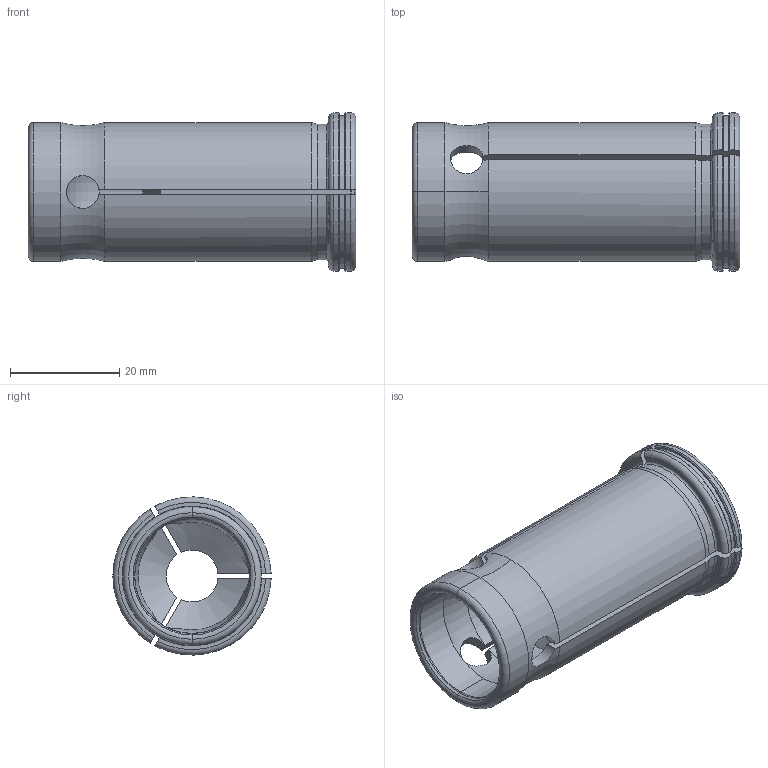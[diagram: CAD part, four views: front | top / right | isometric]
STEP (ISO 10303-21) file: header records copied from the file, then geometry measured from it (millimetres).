
FILE_DESCRIPTION((''),'2;1');
FILE_NAME('K25_4-9_525','2020-09-02T08:08:44',('ssktool'),(''),'CREO PARAMETRIC BY PTC INC, 2018100','CREO PARAMETRIC BY PTC INC, 2018100','');
FILE_SCHEMA(('CONFIG_CONTROL_DESIGN'));
Length unit declared in the file: millimetre
Products named in the file (1): K25_4-9_525
Bounding box: 60 x 28.99 x 29 mm (x, y, z)
Volume: 19307.7 mm3; surface area: 9991.6 mm2
Topology: 1 solids, 1 shells, 89 faces, 252 edges, 163 vertices
Faces by surface type: cylinder 28, torus 26, plane 18, cone 17
Entity records: 3320 total; most frequent: CARTESIAN_POINT 1045, ORIENTED_EDGE 504, DIRECTION 442, EDGE_CURVE 252, AXIS2_PLACEMENT_3D 182, VERTEX_POINT 163, CIRCLE 93, EDGE_LOOP 89
